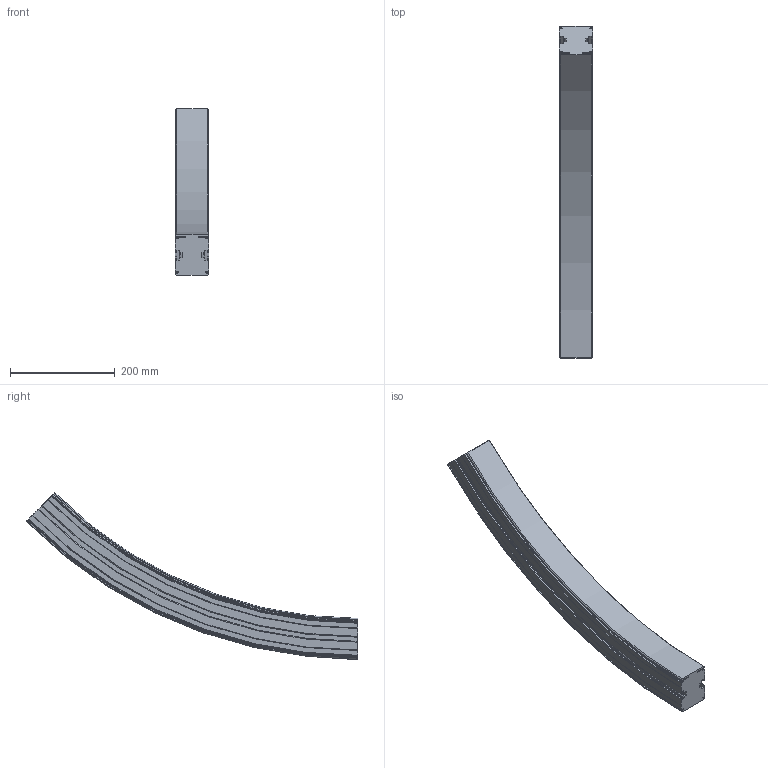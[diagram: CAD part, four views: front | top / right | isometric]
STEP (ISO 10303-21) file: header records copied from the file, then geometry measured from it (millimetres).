
FILE_DESCRIPTION(/* description */ ('VERTIKALKURVA S620 R860'),/* implementation_level */ '2;1');
FILE_NAME(/* name */ '\\carryline.intra\privat\users\mathias\Desktop\Tillfälliga filer\620-5695+620-2000-NER-01.stp',/* time_stamp */ '2018-12-06T07:06:44+01:00',/* author */ ('MD'),/* organization */ ('CARRYLINE'),/* preprocessor_version */ 'ST-DEVELOPER v17',/* originating_system */ 'Autodesk Inventor 2018',/* authorisation */ '');
FILE_SCHEMA (('AUTOMOTIVE_DESIGN { 1 0 10303 214 3 1 1 }'));
Length unit declared in the file: millimetre
Products named in the file (1): 620-5695+620-2000-NER-01
Bounding box: 64 x 634.98 x 318.17 mm (x, y, z)
Volume: 3013798.4 mm3; surface area: 331471 mm2
Topology: 1 solids, 1 shells, 149 faces, 426 edges, 284 vertices
Faces by surface type: plane 54, cylinder 37, torus 28, cone 16, bspline 14
Entity records: 9536 total; most frequent: CARTESIAN_POINT 5516, ORIENTED_EDGE 852, DIRECTION 836, EDGE_CURVE 426, AXIS2_PLACEMENT_3D 315, VERTEX_POINT 284, LINE 206, VECTOR 206
